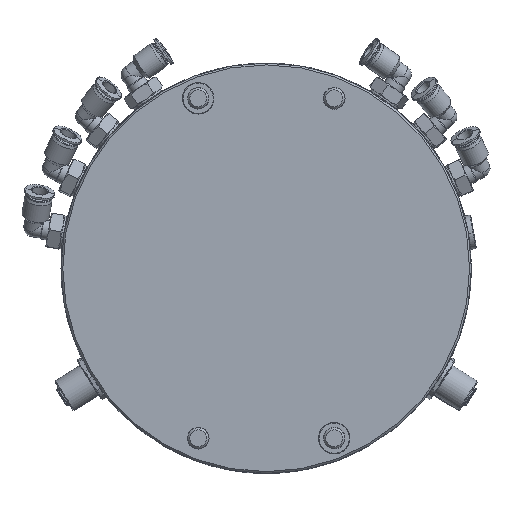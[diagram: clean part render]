
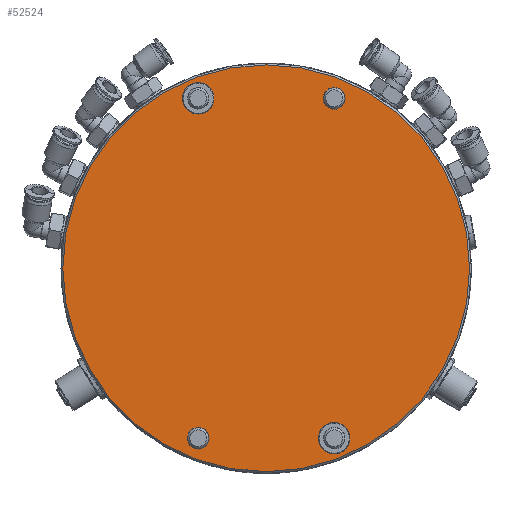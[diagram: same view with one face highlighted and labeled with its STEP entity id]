
A CAD part, front view. The second image highlights one B-rep face of the part: STEP entity #52524.
In plain terms, the highlighted planar face has unit normal (0, -1, 0).
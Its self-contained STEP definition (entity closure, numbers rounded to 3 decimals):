
#28 = ORIENTED_EDGE ( 'NONE', *, *, #76028, .T. ) ;
#201 = ORIENTED_EDGE ( 'NONE', *, *, #67165, .F. ) ;
#484 = EDGE_CURVE ( 'NONE', #48546, #58936, #14268, .T. ) ;
#1643 = ORIENTED_EDGE ( 'NONE', *, *, #13952, .T. ) ;
#2326 = FACE_BOUND ( 'NONE', #9782, .T. ) ;
#2646 = DIRECTION ( 'NONE',  ( 0., 0., 1. ) ) ;
#2912 = CARTESIAN_POINT ( 'NONE',  ( 26., 0., -71.005 ) ) ;
#3760 = CARTESIAN_POINT ( 'NONE',  ( 0., 0., 0. ) ) ;
#4728 = CIRCLE ( 'NONE', #94031, 77.8 ) ;
#5865 = AXIS2_PLACEMENT_3D ( 'NONE', #16573, #83498, #90750 ) ;
#7415 = CARTESIAN_POINT ( 'NONE',  ( -26., 0., -60.85 ) ) ;
#9453 = DIRECTION ( 'NONE',  ( 0., 0., 1. ) ) ;
#9782 = EDGE_LOOP ( 'NONE', ( #16514, #62167 ) ) ;
#10091 = VERTEX_POINT ( 'NONE', #69124 ) ;
#10641 = EDGE_CURVE ( 'NONE', #91260, #78284, #4728, .T. ) ;
#12593 = VERTEX_POINT ( 'NONE', #72025 ) ;
#12643 = ORIENTED_EDGE ( 'NONE', *, *, #78963, .F. ) ;
#13279 = DIRECTION ( 'NONE',  ( 0., 0., 1. ) ) ;
#13952 = EDGE_CURVE ( 'NONE', #87271, #12593, #87632, .T. ) ;
#14268 = CIRCLE ( 'NONE', #60424, 4.15 ) ;
#14422 = DIRECTION ( 'NONE',  ( 0., -1., 0. ) ) ;
#14973 = DIRECTION ( 'NONE',  ( 0., -1., 0. ) ) ;
#15870 = CARTESIAN_POINT ( 'NONE',  ( -26., 0., -69.15 ) ) ;
#16514 = ORIENTED_EDGE ( 'NONE', *, *, #21333, .F. ) ;
#16573 = CARTESIAN_POINT ( 'NONE',  ( 26., 0., -65. ) ) ;
#17123 = DIRECTION ( 'NONE',  ( 0., 0., 1. ) ) ;
#17201 = DIRECTION ( 'NONE',  ( 0., 1., 0. ) ) ;
#17324 = PLANE ( 'NONE',  #83509 ) ;
#19097 = VERTEX_POINT ( 'NONE', #2912 ) ;
#19417 = CARTESIAN_POINT ( 'NONE',  ( 0., 0., -77.8 ) ) ;
#20544 = AXIS2_PLACEMENT_3D ( 'NONE', #95408, #14422, #9453 ) ;
#21333 = EDGE_CURVE ( 'NONE', #25039, #10091, #90887, .T. ) ;
#21891 = EDGE_LOOP ( 'NONE', ( #36785, #1643 ) ) ;
#22846 = AXIS2_PLACEMENT_3D ( 'NONE', #73621, #43758, #73157 ) ;
#23936 = ORIENTED_EDGE ( 'NONE', *, *, #10641, .T. ) ;
#24874 = EDGE_CURVE ( 'NONE', #12593, #87271, #94881, .T. ) ;
#25039 = VERTEX_POINT ( 'NONE', #84568 ) ;
#26911 = DIRECTION ( 'NONE',  ( 0., 1., 0. ) ) ;
#27126 = CARTESIAN_POINT ( 'NONE',  ( 0., 0., 77.8 ) ) ;
#29233 = AXIS2_PLACEMENT_3D ( 'NONE', #83107, #67726, #17123 ) ;
#33681 = CIRCLE ( 'NONE', #22846, 6.005 ) ;
#33786 = VERTEX_POINT ( 'NONE', #63128 ) ;
#35552 = EDGE_LOOP ( 'NONE', ( #53456, #89674 ) ) ;
#35631 = CARTESIAN_POINT ( 'NONE',  ( 0., 0., 0. ) ) ;
#36003 = EDGE_CURVE ( 'NONE', #58936, #48546, #73247, .T. ) ;
#36785 = ORIENTED_EDGE ( 'NONE', *, *, #24874, .T. ) ;
#43311 = DIRECTION ( 'NONE',  ( 0., -1., 0. ) ) ;
#43425 = CARTESIAN_POINT ( 'NONE',  ( -26., 0., 65. ) ) ;
#43758 = DIRECTION ( 'NONE',  ( 0., -1., 0. ) ) ;
#47021 = DIRECTION ( 'NONE',  ( 0., 1., 0. ) ) ;
#47196 = FACE_BOUND ( 'NONE', #21891, .T. ) ;
#48546 = VERTEX_POINT ( 'NONE', #7415 ) ;
#52524 = ADVANCED_FACE ( 'NONE', ( #2326, #83777, #53438, #47196, #83305 ), #17324, .F. ) ;
#53438 = FACE_BOUND ( 'NONE', #35552, .T. ) ;
#53456 = ORIENTED_EDGE ( 'NONE', *, *, #484, .T. ) ;
#53537 = CIRCLE ( 'NONE', #5865, 6.005 ) ;
#56283 = DIRECTION ( 'NONE',  ( 0., 0., 1. ) ) ;
#56999 = AXIS2_PLACEMENT_3D ( 'NONE', #81535, #73378, #72432 ) ;
#57014 = AXIS2_PLACEMENT_3D ( 'NONE', #43425, #14973, #87263 ) ;
#58936 = VERTEX_POINT ( 'NONE', #15870 ) ;
#59448 = AXIS2_PLACEMENT_3D ( 'NONE', #60983, #47021, #2646 ) ;
#60424 = AXIS2_PLACEMENT_3D ( 'NONE', #69690, #17201, #86043 ) ;
#60481 = DIRECTION ( 'NONE',  ( 0., 0., 1. ) ) ;
#60983 = CARTESIAN_POINT ( 'NONE',  ( 26., 0., 65. ) ) ;
#62103 = CIRCLE ( 'NONE', #20544, 77.8 ) ;
#62167 = ORIENTED_EDGE ( 'NONE', *, *, #73558, .F. ) ;
#63128 = CARTESIAN_POINT ( 'NONE',  ( 26., 0., -58.995 ) ) ;
#63499 = CARTESIAN_POINT ( 'NONE',  ( 26., 0., 60.85 ) ) ;
#64051 = AXIS2_PLACEMENT_3D ( 'NONE', #65350, #79266, #13279 ) ;
#65350 = CARTESIAN_POINT ( 'NONE',  ( -26., 0., -65. ) ) ;
#67165 = EDGE_CURVE ( 'NONE', #19097, #33786, #84736, .T. ) ;
#67726 = DIRECTION ( 'NONE',  ( 0., 1., 0. ) ) ;
#69124 = CARTESIAN_POINT ( 'NONE',  ( -26., 0., 71.005 ) ) ;
#69690 = CARTESIAN_POINT ( 'NONE',  ( -26., 0., -65. ) ) ;
#72025 = CARTESIAN_POINT ( 'NONE',  ( 26., 0., 69.15 ) ) ;
#72432 = DIRECTION ( 'NONE',  ( 0., 0., -1. ) ) ;
#73157 = DIRECTION ( 'NONE',  ( 0., 0., -1. ) ) ;
#73247 = CIRCLE ( 'NONE', #64051, 4.15 ) ;
#73378 = DIRECTION ( 'NONE',  ( 0., -1., 0. ) ) ;
#73558 = EDGE_CURVE ( 'NONE', #10091, #25039, #33681, .T. ) ;
#73621 = CARTESIAN_POINT ( 'NONE',  ( -26., 0., 65. ) ) ;
#76028 = EDGE_CURVE ( 'NONE', #78284, #91260, #62103, .T. ) ;
#77298 = EDGE_LOOP ( 'NONE', ( #201, #12643 ) ) ;
#78284 = VERTEX_POINT ( 'NONE', #27126 ) ;
#78963 = EDGE_CURVE ( 'NONE', #33786, #19097, #53537, .T. ) ;
#79266 = DIRECTION ( 'NONE',  ( 0., 1., 0. ) ) ;
#81535 = CARTESIAN_POINT ( 'NONE',  ( 26., 0., -65. ) ) ;
#81999 = EDGE_LOOP ( 'NONE', ( #28, #23936 ) ) ;
#83107 = CARTESIAN_POINT ( 'NONE',  ( 26., 0., 65. ) ) ;
#83305 = FACE_OUTER_BOUND ( 'NONE', #81999, .T. ) ;
#83498 = DIRECTION ( 'NONE',  ( 0., -1., 0. ) ) ;
#83509 = AXIS2_PLACEMENT_3D ( 'NONE', #3760, #26911, #56283 ) ;
#83777 = FACE_BOUND ( 'NONE', #77298, .T. ) ;
#84568 = CARTESIAN_POINT ( 'NONE',  ( -26., 0., 58.995 ) ) ;
#84736 = CIRCLE ( 'NONE', #56999, 6.005 ) ;
#86043 = DIRECTION ( 'NONE',  ( 0., 0., 1. ) ) ;
#87263 = DIRECTION ( 'NONE',  ( 0., 0., -1. ) ) ;
#87271 = VERTEX_POINT ( 'NONE', #63499 ) ;
#87632 = CIRCLE ( 'NONE', #29233, 4.15 ) ;
#89674 = ORIENTED_EDGE ( 'NONE', *, *, #36003, .T. ) ;
#90750 = DIRECTION ( 'NONE',  ( 0., 0., -1. ) ) ;
#90887 = CIRCLE ( 'NONE', #57014, 6.005 ) ;
#91260 = VERTEX_POINT ( 'NONE', #19417 ) ;
#94031 = AXIS2_PLACEMENT_3D ( 'NONE', #35631, #43311, #60481 ) ;
#94881 = CIRCLE ( 'NONE', #59448, 4.15 ) ;
#95408 = CARTESIAN_POINT ( 'NONE',  ( 0., 0., 0. ) ) ;
